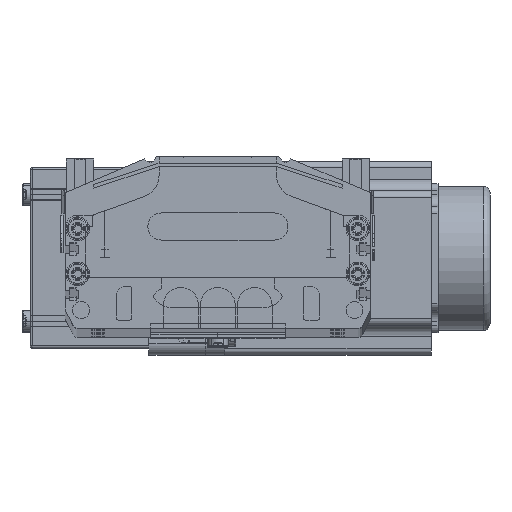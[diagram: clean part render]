
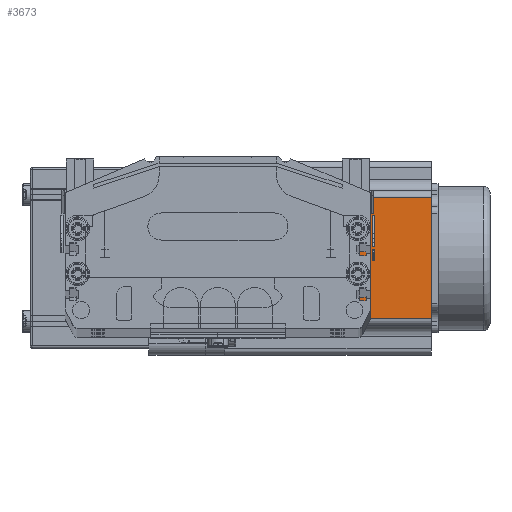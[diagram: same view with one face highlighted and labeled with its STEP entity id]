
A CAD part, top view. The second image highlights one B-rep face of the part: STEP entity #3673.
In plain terms, the highlighted planar face has unit normal (0, 0, 1) as drawn and (-1, 0, 0) by its records, which use the part's own axes.
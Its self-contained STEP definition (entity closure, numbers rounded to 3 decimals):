
#3532 = ORIENTED_EDGE ( 'NONE', *, *, #4026, .F. ) ;
#3588 = EDGE_LOOP ( 'NONE', ( #3661, #3674, #3532, #4027 ) ) ;
#3661 = ORIENTED_EDGE ( 'NONE', *, *, #3663, .T. ) ;
#3663 = EDGE_CURVE ( 'NONE', #3676, #3669, #67504, .T. ) ;
#3669 = VERTEX_POINT ( 'NONE', #67282 ) ;
#3673 = ADVANCED_FACE ( 'NONE', ( #67286 ), #67552, .F. ) ;
#3674 = ORIENTED_EDGE ( 'NONE', *, *, #3887, .T. ) ;
#3676 = VERTEX_POINT ( 'NONE', #67271 ) ;
#3849 = VERTEX_POINT ( 'NONE', #68322 ) ;
#3887 = EDGE_CURVE ( 'NONE', #3669, #3849, #68309, .T. ) ;
#4026 = EDGE_CURVE ( 'NONE', #4035, #3849, #68913, .T. ) ;
#4027 = ORIENTED_EDGE ( 'NONE', *, *, #4030, .T. ) ;
#4030 = EDGE_CURVE ( 'NONE', #4035, #3676, #68899, .T. ) ;
#4035 = VERTEX_POINT ( 'NONE', #68908 ) ;
#67186 = DIRECTION ( 'NONE',  ( 0., -1., 0. ) ) ;
#67187 = CARTESIAN_POINT ( 'NONE',  ( 0., 0., 0. ) ) ;
#67271 = CARTESIAN_POINT ( 'NONE',  ( 0., 69.74, 0. ) ) ;
#67279 = AXIS2_PLACEMENT_3D ( 'NONE', #67541, #67533, #67532 ) ;
#67282 = CARTESIAN_POINT ( 'NONE',  ( 0., 16.16, 0. ) ) ;
#67286 = FACE_OUTER_BOUND ( 'NONE', #3588, .T. ) ;
#67489 = VECTOR ( 'NONE', #67186, 1000. ) ;
#67504 = LINE ( 'NONE', #67187, #67489 ) ;
#67532 = DIRECTION ( 'NONE',  ( 0., 0., -1. ) ) ;
#67533 = DIRECTION ( 'NONE',  ( 1., 0., 0. ) ) ;
#67541 = CARTESIAN_POINT ( 'NONE',  ( 0., 0., 91.5 ) ) ;
#67552 = PLANE ( 'NONE',  #67279 ) ;
#68053 = DIRECTION ( 'NONE',  ( 0., 0., 1. ) ) ;
#68055 = VECTOR ( 'NONE', #68053, 1000. ) ;
#68308 = CARTESIAN_POINT ( 'NONE',  ( 0., 16.16, 91.5 ) ) ;
#68309 = LINE ( 'NONE', #68308, #68055 ) ;
#68322 = CARTESIAN_POINT ( 'NONE',  ( 0., 16.16, 91.5 ) ) ;
#68895 = DIRECTION ( 'NONE',  ( 0., 0., -1. ) ) ;
#68896 = VECTOR ( 'NONE', #68895, 1000. ) ;
#68897 = CARTESIAN_POINT ( 'NONE',  ( 0., 69.74, 91.5 ) ) ;
#68899 = LINE ( 'NONE', #68897, #68896 ) ;
#68908 = CARTESIAN_POINT ( 'NONE',  ( 0., 69.74, 91.5 ) ) ;
#68909 = DIRECTION ( 'NONE',  ( 0., -1., 0. ) ) ;
#68911 = VECTOR ( 'NONE', #68909, 1000. ) ;
#68912 = CARTESIAN_POINT ( 'NONE',  ( 0., 0., 91.5 ) ) ;
#68913 = LINE ( 'NONE', #68912, #68911 ) ;
